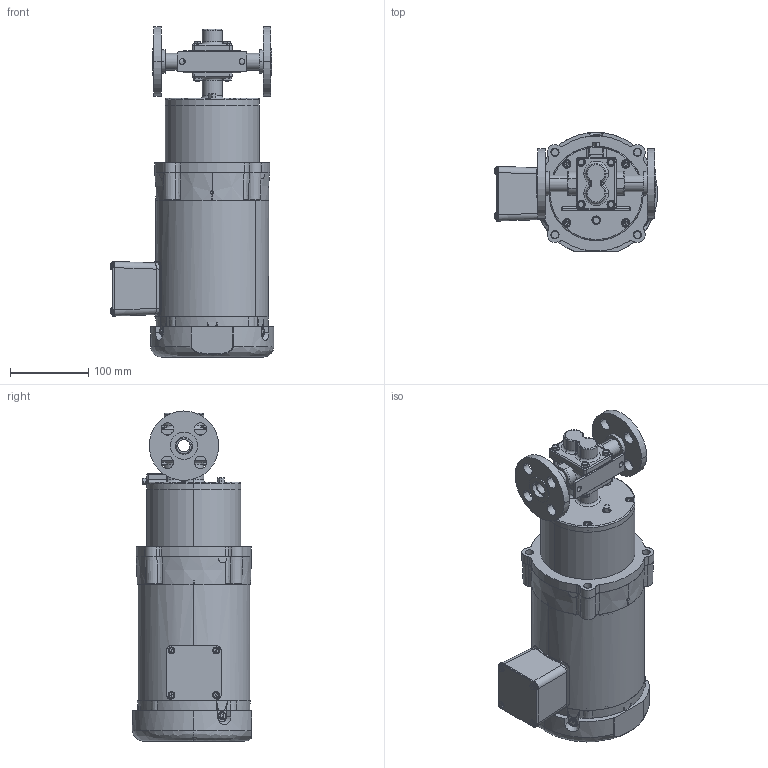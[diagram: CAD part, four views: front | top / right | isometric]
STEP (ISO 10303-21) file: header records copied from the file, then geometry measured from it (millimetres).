
FILE_DESCRIPTION (( 'STEP AP214' ), '1' );
FILE_NAME ('GMC4 FLNG 56C MOTOR.STEP', '2025-08-29T13:47:11', ( '' ), ( '' ), 'SwSTEP 2.0', 'SolidWorks 2024', '' );
FILE_SCHEMA (( 'AUTOMOTIVE_DESIGN' ));
Length unit declared in the file: inch
Products named in the file (1): GMC4 FLNG 56C MOTOR
Bounding box: 208.87 x 152.52 x 422.31 mm (x, y, z)
Volume: 4783520.9 mm3; surface area: 477830.7 mm2
Topology: 23 solids, 23 shells, 1594 faces, 3947 edges, 2467 vertices
Faces by surface type: plane 546, cylinder 524, cone 289, bspline 166, torus 55, sphere 14
Entity records: 65055 total; most frequent: CARTESIAN_POINT 27909, ORIENTED_EDGE 7850, DIRECTION 7502, EDGE_CURVE 3925, AXIS2_PLACEMENT_3D 2983, VERTEX_POINT 2467, EDGE_LOOP 1798, ADVANCED_FACE 1594
